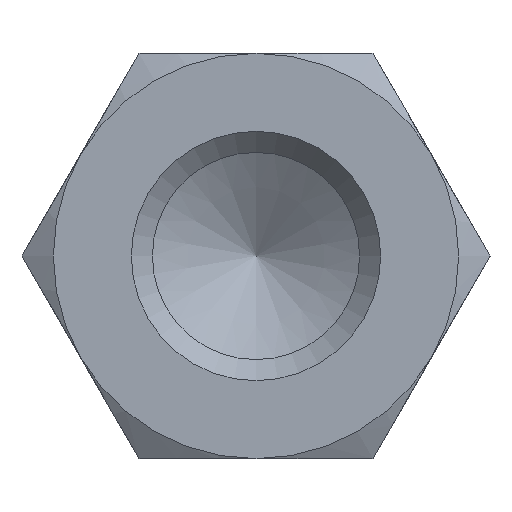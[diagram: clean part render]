
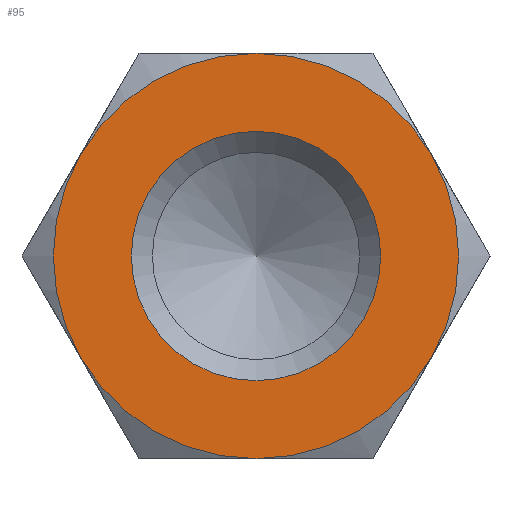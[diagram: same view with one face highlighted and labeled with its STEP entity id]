
A CAD part, left-side view. The second image highlights one B-rep face of the part: STEP entity #95.
In plain terms, the highlighted planar face has unit normal (-1, 0, 0).
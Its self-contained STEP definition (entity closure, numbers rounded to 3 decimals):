
#95 = ADVANCED_FACE( '', ( #147, #148 ), #149, .F. );
#147 = FACE_OUTER_BOUND( '', #206, .T. );
#148 = FACE_BOUND( '', #207, .T. );
#149 = PLANE( '', #208 );
#206 = EDGE_LOOP( '', ( #356, #357, #358, #359, #360, #361 ) );
#207 = EDGE_LOOP( '', ( #362 ) );
#208 = AXIS2_PLACEMENT_3D( '', #363, #364, #365 );
#356 = ORIENTED_EDGE( '', *, *, #440, .F. );
#357 = ORIENTED_EDGE( '', *, *, #425, .F. );
#358 = ORIENTED_EDGE( '', *, *, #441, .F. );
#359 = ORIENTED_EDGE( '', *, *, #437, .F. );
#360 = ORIENTED_EDGE( '', *, *, #442, .F. );
#361 = ORIENTED_EDGE( '', *, *, #443, .F. );
#362 = ORIENTED_EDGE( '', *, *, #439, .T. );
#363 = CARTESIAN_POINT( '', ( -50., 0., 0. ) );
#364 = DIRECTION( '', ( 1., 0., 0. ) );
#365 = DIRECTION( '', ( 0., 0., -1. ) );
#425 = EDGE_CURVE( '', #495, #493, #497, .T. );
#437 = EDGE_CURVE( '', #447, #506, #513, .T. );
#439 = EDGE_CURVE( '', #516, #516, #517, .T. );
#440 = EDGE_CURVE( '', #493, #486, #518, .T. );
#441 = EDGE_CURVE( '', #506, #495, #519, .T. );
#442 = EDGE_CURVE( '', #481, #447, #520, .T. );
#443 = EDGE_CURVE( '', #486, #481, #521, .T. );
#447 = VERTEX_POINT( '', #525 );
#481 = VERTEX_POINT( '', #607 );
#486 = VERTEX_POINT( '', #623 );
#493 = VERTEX_POINT( '', #650 );
#495 = VERTEX_POINT( '', #657 );
#497 = CIRCLE( '', #664, 6.5 );
#506 = VERTEX_POINT( '', #690 );
#513 = CIRCLE( '', #733, 6.5 );
#516 = VERTEX_POINT( '', #736 );
#517 = CIRCLE( '', #737, 4. );
#518 = CIRCLE( '', #738, 6.5 );
#519 = CIRCLE( '', #739, 6.5 );
#520 = CIRCLE( '', #740, 6.5 );
#521 = CIRCLE( '', #741, 6.5 );
#525 = CARTESIAN_POINT( '', ( -50., -5.629, 3.25 ) );
#607 = CARTESIAN_POINT( '', ( -50., 0., 6.5 ) );
#623 = CARTESIAN_POINT( '', ( -50., 5.629, 3.25 ) );
#650 = CARTESIAN_POINT( '', ( -50., 5.629, -3.25 ) );
#657 = CARTESIAN_POINT( '', ( -50., 0., -6.5 ) );
#664 = AXIS2_PLACEMENT_3D( '', #776, #777, #778 );
#690 = CARTESIAN_POINT( '', ( -50., -5.629, -3.25 ) );
#733 = AXIS2_PLACEMENT_3D( '', #781, #782, #783 );
#736 = CARTESIAN_POINT( '', ( -50., 0., -4. ) );
#737 = AXIS2_PLACEMENT_3D( '', #787, #788, #789 );
#738 = AXIS2_PLACEMENT_3D( '', #790, #791, #792 );
#739 = AXIS2_PLACEMENT_3D( '', #793, #794, #795 );
#740 = AXIS2_PLACEMENT_3D( '', #796, #797, #798 );
#741 = AXIS2_PLACEMENT_3D( '', #799, #800, #801 );
#776 = CARTESIAN_POINT( '', ( -50., 0., 0. ) );
#777 = DIRECTION( '', ( 1., 0., 0. ) );
#778 = DIRECTION( '', ( 0., 0., -1. ) );
#781 = CARTESIAN_POINT( '', ( -50., 0., 0. ) );
#782 = DIRECTION( '', ( 1., 0., 0. ) );
#783 = DIRECTION( '', ( 0., 0., -1. ) );
#787 = CARTESIAN_POINT( '', ( -50., 0., 0. ) );
#788 = DIRECTION( '', ( 1., 0., 0. ) );
#789 = DIRECTION( '', ( 0., 0., -1. ) );
#790 = CARTESIAN_POINT( '', ( -50., 0., 0. ) );
#791 = DIRECTION( '', ( 1., 0., 0. ) );
#792 = DIRECTION( '', ( 0., 0., -1. ) );
#793 = CARTESIAN_POINT( '', ( -50., 0., 0. ) );
#794 = DIRECTION( '', ( 1., 0., 0. ) );
#795 = DIRECTION( '', ( 0., 0., -1. ) );
#796 = CARTESIAN_POINT( '', ( -50., 0., 0. ) );
#797 = DIRECTION( '', ( 1., 0., 0. ) );
#798 = DIRECTION( '', ( 0., 0., -1. ) );
#799 = CARTESIAN_POINT( '', ( -50., 0., 0. ) );
#800 = DIRECTION( '', ( 1., 0., 0. ) );
#801 = DIRECTION( '', ( 0., 0., -1. ) );
